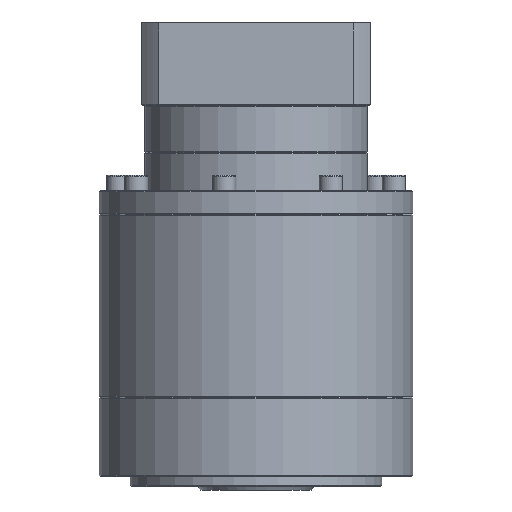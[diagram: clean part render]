
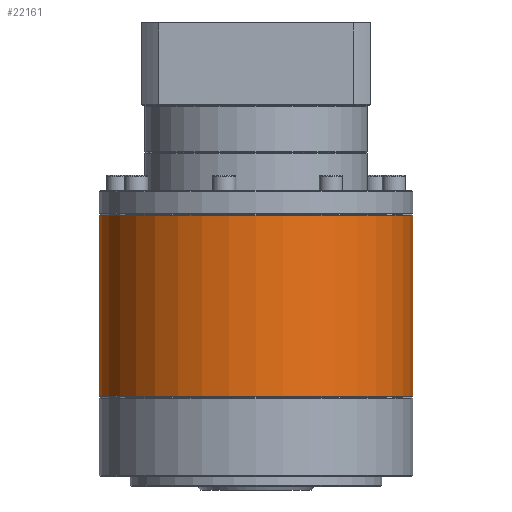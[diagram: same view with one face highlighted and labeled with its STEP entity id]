
A CAD part, front view. The second image highlights one B-rep face of the part: STEP entity #22161.
In plain terms, the highlighted cylindrical face has radius 81 mm (diameter 162 mm), a partial arc.
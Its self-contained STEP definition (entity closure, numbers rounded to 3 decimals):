
#9243 = CARTESIAN_POINT ( 'NONE',  ( -135.128, 93.82, -96.363 ) ) ;
#15880 = CARTESIAN_POINT ( 'NONE',  ( -54.128, 93.82, -96.863 ) ) ;
#19239 = VERTEX_POINT ( 'NONE', #92884 ) ;
#19402 = CARTESIAN_POINT ( 'NONE',  ( -216.128, 93.82, -190.363 ) ) ;
#19659 = VECTOR ( 'NONE', #83505, 1000. ) ;
#22161 = ADVANCED_FACE ( 'NONE', ( #26451 ), #144516, .T. ) ;
#22795 = ORIENTED_EDGE ( 'NONE', *, *, #143799, .T. ) ;
#23470 = LINE ( 'NONE', #71452, #19659 ) ;
#26451 = FACE_OUTER_BOUND ( 'NONE', #107138, .T. ) ;
#26877 = CIRCLE ( 'NONE', #82072, 81. ) ;
#39321 = EDGE_CURVE ( 'NONE', #55421, #140949, #23470, .T. ) ;
#42157 = CARTESIAN_POINT ( 'NONE',  ( -216.128, 93.82, -96.863 ) ) ;
#45824 = DIRECTION ( 'NONE',  ( 0., 0., -1. ) ) ;
#46092 = EDGE_CURVE ( 'NONE', #138793, #19239, #89446, .T. ) ;
#55421 = VERTEX_POINT ( 'NONE', #42157 ) ;
#68257 = AXIS2_PLACEMENT_3D ( 'NONE', #9243, #152102, #128493 ) ;
#68638 = ORIENTED_EDGE ( 'NONE', *, *, #110200, .T. ) ;
#71452 = CARTESIAN_POINT ( 'NONE',  ( -216.128, 93.82, -96.363 ) ) ;
#80407 = DIRECTION ( 'NONE',  ( -1., 0., 0. ) ) ;
#82072 = AXIS2_PLACEMENT_3D ( 'NONE', #92446, #45824, #116469 ) ;
#83505 = DIRECTION ( 'NONE',  ( 0., 0., -1. ) ) ;
#85234 = CARTESIAN_POINT ( 'NONE',  ( -54.128, 93.82, -96.363 ) ) ;
#89273 = ORIENTED_EDGE ( 'NONE', *, *, #46092, .F. ) ;
#89446 = LINE ( 'NONE', #85234, #121226 ) ;
#92446 = CARTESIAN_POINT ( 'NONE',  ( -135.128, 93.82, -96.863 ) ) ;
#92884 = CARTESIAN_POINT ( 'NONE',  ( -54.128, 93.82, -190.363 ) ) ;
#102909 = CARTESIAN_POINT ( 'NONE',  ( -135.128, 93.82, -190.363 ) ) ;
#103427 = DIRECTION ( 'NONE',  ( 0., 0., 1. ) ) ;
#107138 = EDGE_LOOP ( 'NONE', ( #89273, #68638, #126439, #22795 ) ) ;
#108587 = CIRCLE ( 'NONE', #134890, 81. ) ;
#109776 = DIRECTION ( 'NONE',  ( 0., 0., -1. ) ) ;
#110200 = EDGE_CURVE ( 'NONE', #138793, #55421, #26877, .T. ) ;
#116469 = DIRECTION ( 'NONE',  ( -1., 0., 0. ) ) ;
#121226 = VECTOR ( 'NONE', #109776, 1000. ) ;
#126439 = ORIENTED_EDGE ( 'NONE', *, *, #39321, .T. ) ;
#128493 = DIRECTION ( 'NONE',  ( -1., 0., 0. ) ) ;
#134890 = AXIS2_PLACEMENT_3D ( 'NONE', #102909, #103427, #80407 ) ;
#138793 = VERTEX_POINT ( 'NONE', #15880 ) ;
#140949 = VERTEX_POINT ( 'NONE', #19402 ) ;
#143799 = EDGE_CURVE ( 'NONE', #140949, #19239, #108587, .T. ) ;
#144516 = CYLINDRICAL_SURFACE ( 'NONE', #68257, 81. ) ;
#152102 = DIRECTION ( 'NONE',  ( 0., 0., -1. ) ) ;
